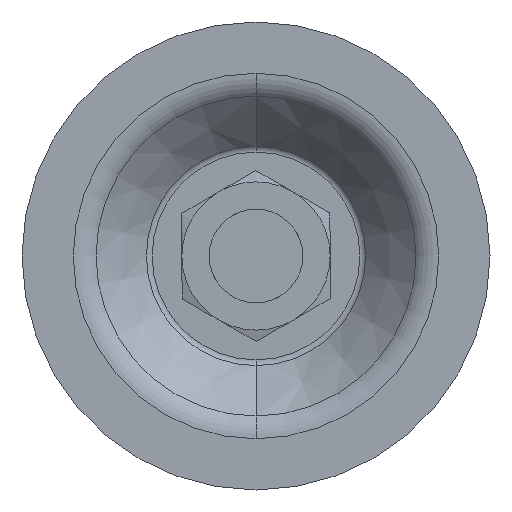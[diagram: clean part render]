
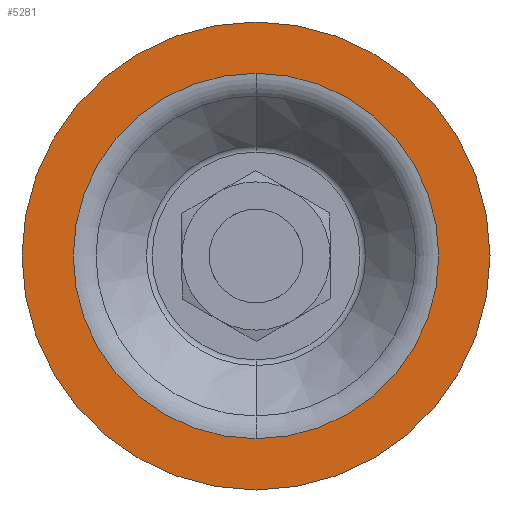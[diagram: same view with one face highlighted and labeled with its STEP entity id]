
A CAD part, front view. The second image highlights one B-rep face of the part: STEP entity #5281.
In plain terms, the highlighted planar face has unit normal (0, -1, 0).
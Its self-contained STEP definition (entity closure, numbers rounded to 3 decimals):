
#231 = ORIENTED_EDGE ( 'NONE', *, *, #6799, .T. ) ;
#264 = CIRCLE ( 'NONE', #2992, 30. ) ;
#506 = CARTESIAN_POINT ( 'NONE',  ( 0., 0., -30. ) ) ;
#757 = AXIS2_PLACEMENT_3D ( 'NONE', #5834, #6483, #1551 ) ;
#852 = CARTESIAN_POINT ( 'NONE',  ( 30., 0., 0. ) ) ;
#1362 = EDGE_CURVE ( 'NONE', #3927, #6364, #2539, .T. ) ;
#1388 = EDGE_LOOP ( 'NONE', ( #2962, #231 ) ) ;
#1551 = DIRECTION ( 'NONE',  ( 0., 0., 1. ) ) ;
#1714 = EDGE_LOOP ( 'NONE', ( #2889, #3337 ) ) ;
#1847 = CARTESIAN_POINT ( 'NONE',  ( 0., 0., 23.434 ) ) ;
#1953 = EDGE_CURVE ( 'NONE', #5619, #3758, #6742, .T. ) ;
#2115 = CARTESIAN_POINT ( 'NONE',  ( 0., 0., 0. ) ) ;
#2539 = CIRCLE ( 'NONE', #5523, 23.434 ) ;
#2851 = DIRECTION ( 'NONE',  ( 0., 1., 0. ) ) ;
#2889 = ORIENTED_EDGE ( 'NONE', *, *, #3166, .F. ) ;
#2962 = ORIENTED_EDGE ( 'NONE', *, *, #1362, .T. ) ;
#2992 = AXIS2_PLACEMENT_3D ( 'NONE', #4652, #2851, #4090 ) ;
#3166 = EDGE_CURVE ( 'NONE', #3758, #5619, #264, .T. ) ;
#3212 = FACE_OUTER_BOUND ( 'NONE', #1714, .T. ) ;
#3337 = ORIENTED_EDGE ( 'NONE', *, *, #1953, .F. ) ;
#3758 = VERTEX_POINT ( 'NONE', #4730 ) ;
#3800 = AXIS2_PLACEMENT_3D ( 'NONE', #852, #3880, #5711 ) ;
#3880 = DIRECTION ( 'NONE',  ( 0., 1., 0. ) ) ;
#3927 = VERTEX_POINT ( 'NONE', #1847 ) ;
#4005 = CARTESIAN_POINT ( 'NONE',  ( 0., 0., -23.434 ) ) ;
#4027 = DIRECTION ( 'NONE',  ( 0., 1., 0. ) ) ;
#4070 = CARTESIAN_POINT ( 'NONE',  ( 0., 0., 0. ) ) ;
#4090 = DIRECTION ( 'NONE',  ( 0., 0., 1. ) ) ;
#4652 = CARTESIAN_POINT ( 'NONE',  ( 0., 0., 0. ) ) ;
#4730 = CARTESIAN_POINT ( 'NONE',  ( 0., 0., 30. ) ) ;
#5135 = PLANE ( 'NONE',  #3800 ) ;
#5179 = DIRECTION ( 'NONE',  ( 0., 0., 1. ) ) ;
#5281 = ADVANCED_FACE ( 'NONE', ( #3212, #7597 ), #5135, .F. ) ;
#5523 = AXIS2_PLACEMENT_3D ( 'NONE', #4070, #7791, #5976 ) ;
#5619 = VERTEX_POINT ( 'NONE', #506 ) ;
#5711 = DIRECTION ( 'NONE',  ( 0., 0., 1. ) ) ;
#5834 = CARTESIAN_POINT ( 'NONE',  ( 0., 0., 0. ) ) ;
#5976 = DIRECTION ( 'NONE',  ( 0., 0., 1. ) ) ;
#6158 = CIRCLE ( 'NONE', #757, 23.434 ) ;
#6364 = VERTEX_POINT ( 'NONE', #4005 ) ;
#6483 = DIRECTION ( 'NONE',  ( 0., 1., 0. ) ) ;
#6742 = CIRCLE ( 'NONE', #7694, 30. ) ;
#6799 = EDGE_CURVE ( 'NONE', #6364, #3927, #6158, .T. ) ;
#7597 = FACE_BOUND ( 'NONE', #1388, .T. ) ;
#7694 = AXIS2_PLACEMENT_3D ( 'NONE', #2115, #4027, #5179 ) ;
#7791 = DIRECTION ( 'NONE',  ( 0., 1., 0. ) ) ;
